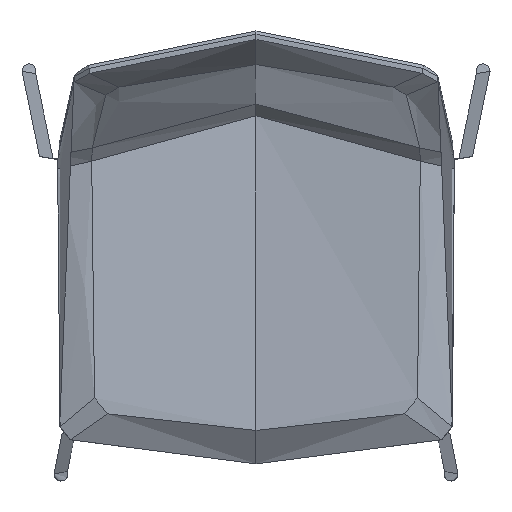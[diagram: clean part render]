
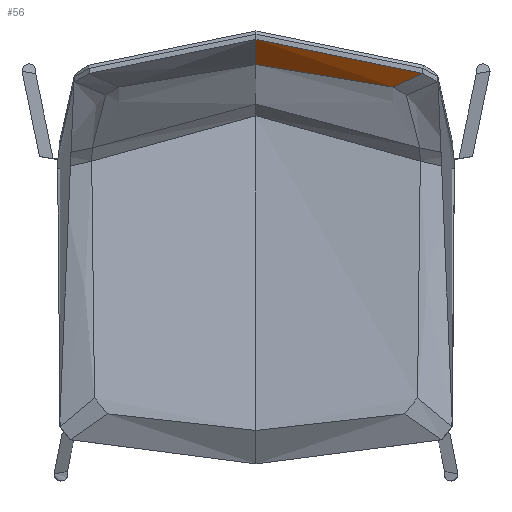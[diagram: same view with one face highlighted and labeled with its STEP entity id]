
A CAD part, top view. The second image highlights one B-rep face of the part: STEP entity #56.
In plain terms, the highlighted free-form (B-spline) face has degree [3, 4] with [6, 5] control points.
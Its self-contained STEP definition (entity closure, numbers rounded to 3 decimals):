
#56=ADVANCED_FACE('',(#182),#1774,.T.);
#182=FACE_OUTER_BOUND('',#308,.T.);
#308=EDGE_LOOP('',(#463,#464,#465,#466));
#463=ORIENTED_EDGE('',*,*,#974,.T.);
#464=ORIENTED_EDGE('',*,*,#976,.T.);
#465=ORIENTED_EDGE('',*,*,#977,.T.);
#466=ORIENTED_EDGE('',*,*,#975,.T.);
#974=EDGE_CURVE('',#1535,#1534,#1395,.T.);
#975=EDGE_CURVE('',#1526,#1535,#1396,.T.);
#976=EDGE_CURVE('',#1534,#1536,#1397,.T.);
#977=EDGE_CURVE('',#1536,#1526,#1398,.T.);
#1395=B_SPLINE_CURVE_WITH_KNOTS('',3,(#9945,#9946,#9947,#9948,#9949,#9950,
#9951,#9952,#9953,#9954,#9955,#9956,#9957,#9958,#9959,#9960,#9961,#9962,
#9963,#9964,#9965,#9966,#9967,#9968,#9969,#9970,#9971,#9972,#9973,#9974,
#9975,#9976),.UNSPECIFIED.,.F.,.F.,(4,1,1,1,1,1,1,1,1,1,1,1,1,1,1,1,1,1,
1,1,1,1,1,1,1,1,1,1,1,4),(-63.045,-54.908,-46.771,
-38.634,-33.752,-28.869,-23.987,
-19.105,-14.223,-12.801,-11.379,
-9.956,-8.534,-7.823,-7.112,
-6.4,-5.689,-4.978,-4.267,
-3.556,-3.2,-2.845,-2.489,
-2.133,-1.778,-1.422,-1.067,
-0.711,-0.356,0.),.UNSPECIFIED.);
#1396=B_SPLINE_CURVE_WITH_KNOTS('',3,(#9977,#9978,#9979,#9980,#9981,#9982),
 .UNSPECIFIED.,.F.,.F.,(4,2,4),(0.,96.928,164.198),
 .UNSPECIFIED.);
#1397=B_SPLINE_CURVE_WITH_KNOTS('',3,(#9983,#9984,#9985,#9986,#9987,#9988),
 .UNSPECIFIED.,.F.,.F.,(4,2,4),(-193.856,-96.928,0.),
 .UNSPECIFIED.);
#1398=B_SPLINE_CURVE_WITH_KNOTS('',4,(#9989,#9990,#9991,#9992,#9993),
 .UNSPECIFIED.,.F.,.F.,(5,5),(-58.239,0.),.UNSPECIFIED.);
#1526=VERTEX_POINT('',#9469);
#1534=VERTEX_POINT('',#9477);
#1535=VERTEX_POINT('',#9478);
#1536=VERTEX_POINT('',#9479);
#1774=B_SPLINE_SURFACE_WITH_KNOTS('',3,4,((#4336,#4337,#4338,#4339,#4340),
(#4341,#4342,#4343,#4344,#4345),(#4346,#4347,#4348,#4349,#4350),(#4351,
#4352,#4353,#4354,#4355),(#4356,#4357,#4358,#4359,#4360),(#4361,#4362,#4363,
#4364,#4365)),.UNSPECIFIED.,.F.,.F.,.F.,(4,2,4),(5,5),(0.,96.928,
193.856),(0.,58.239),.UNSPECIFIED.);
#4336=CARTESIAN_POINT('',(0.,246.095,758.816));
#4337=CARTESIAN_POINT('',(0.,250.302,773.715));
#4338=CARTESIAN_POINT('',(0.,254.709,788.558));
#4339=CARTESIAN_POINT('',(0.,267.49,807.231));
#4340=CARTESIAN_POINT('',(0.,275.,807.231));
#4341=CARTESIAN_POINT('',(31.727,246.094,758.817));
#4342=CARTESIAN_POINT('',(31.995,250.302,773.715));
#4343=CARTESIAN_POINT('',(32.276,254.71,788.558));
#4344=CARTESIAN_POINT('',(32.879,267.494,807.231));
#4345=CARTESIAN_POINT('',(32.892,275.003,807.231));
#4346=CARTESIAN_POINT('',(63.455,243.057,758.816));
#4347=CARTESIAN_POINT('',(63.992,247.206,773.806));
#4348=CARTESIAN_POINT('',(64.555,251.542,788.743));
#4349=CARTESIAN_POINT('',(65.758,264.251,807.248));
#4350=CARTESIAN_POINT('',(65.782,271.684,807.231));
#4351=CARTESIAN_POINT('',(125.745,230.96,758.817));
#4352=CARTESIAN_POINT('',(126.767,234.838,773.984));
#4353=CARTESIAN_POINT('',(127.827,238.853,789.114));
#4354=CARTESIAN_POINT('',(130.192,251.045,807.316));
#4355=CARTESIAN_POINT('',(130.241,258.549,807.23));
#4356=CARTESIAN_POINT('',(156.307,221.894,758.816));
#4357=CARTESIAN_POINT('',(157.541,225.561,774.07));
#4358=CARTESIAN_POINT('',(158.811,229.325,789.298));
#4359=CARTESIAN_POINT('',(161.744,241.09,807.37));
#4360=CARTESIAN_POINT('',(161.807,248.733,807.23));
#4361=CARTESIAN_POINT('',(185.684,209.908,758.816));
#4362=CARTESIAN_POINT('',(187.068,213.298,774.027));
#4363=CARTESIAN_POINT('',(188.469,216.733,789.226));
#4364=CARTESIAN_POINT('',(192.002,228.265,807.436));
#4365=CARTESIAN_POINT('',(192.077,235.864,807.229));
#9469=CARTESIAN_POINT('',(0.,246.095,758.816));
#9477=CARTESIAN_POINT('',(192.077,235.864,807.229));
#9478=CARTESIAN_POINT('',(158.402,220.087,758.816));
#9479=CARTESIAN_POINT('',(0.,275.,807.231));
#9945=CARTESIAN_POINT('',(158.402,220.087,758.816));
#9946=CARTESIAN_POINT('',(159.782,220.237,761.143));
#9947=CARTESIAN_POINT('',(162.54,220.529,765.797));
#9948=CARTESIAN_POINT('',(166.725,221.153,772.738));
#9949=CARTESIAN_POINT('',(170.419,221.972,778.679));
#9950=CARTESIAN_POINT('',(173.598,222.906,783.633));
#9951=CARTESIAN_POINT('',(176.232,223.836,787.629));
#9952=CARTESIAN_POINT('',(178.898,224.951,791.557));
#9953=CARTESIAN_POINT('',(181.598,226.28,795.394));
#9954=CARTESIAN_POINT('',(183.685,227.494,798.232));
#9955=CARTESIAN_POINT('',(185.137,228.45,800.128));
#9956=CARTESIAN_POINT('',(185.941,229.012,801.156));
#9957=CARTESIAN_POINT('',(186.748,229.612,802.162));
#9958=CARTESIAN_POINT('',(187.419,230.148,802.975));
#9959=CARTESIAN_POINT('',(187.957,230.603,803.608));
#9960=CARTESIAN_POINT('',(188.36,230.958,804.072));
#9961=CARTESIAN_POINT('',(188.763,231.33,804.524));
#9962=CARTESIAN_POINT('',(189.164,231.719,804.962));
#9963=CARTESIAN_POINT('',(189.564,232.128,805.384));
#9964=CARTESIAN_POINT('',(189.961,232.561,805.784));
#9965=CARTESIAN_POINT('',(190.288,232.942,806.097));
#9966=CARTESIAN_POINT('',(190.547,233.263,806.33));
#9967=CARTESIAN_POINT('',(190.738,233.512,806.496));
#9968=CARTESIAN_POINT('',(190.928,233.77,806.651));
#9969=CARTESIAN_POINT('',(191.114,234.037,806.794));
#9970=CARTESIAN_POINT('',(191.295,234.314,806.922));
#9971=CARTESIAN_POINT('',(191.471,234.603,807.032));
#9972=CARTESIAN_POINT('',(191.64,234.904,807.122));
#9973=CARTESIAN_POINT('',(191.8,235.215,807.189));
#9974=CARTESIAN_POINT('',(191.948,235.535,807.228));
#9975=CARTESIAN_POINT('',(192.036,235.754,807.232));
#9976=CARTESIAN_POINT('',(192.077,235.864,807.229));
#9977=CARTESIAN_POINT('',(0.,246.095,758.816));
#9978=CARTESIAN_POINT('',(31.727,246.094,758.817));
#9979=CARTESIAN_POINT('',(63.455,243.057,758.816));
#9980=CARTESIAN_POINT('',(116.215,232.811,758.816));
#9981=CARTESIAN_POINT('',(137.55,227.159,758.816));
#9982=CARTESIAN_POINT('',(158.402,220.087,758.816));
#9983=CARTESIAN_POINT('',(192.077,235.864,807.229));
#9984=CARTESIAN_POINT('',(161.807,248.733,807.23));
#9985=CARTESIAN_POINT('',(130.241,258.549,807.23));
#9986=CARTESIAN_POINT('',(65.782,271.684,807.231));
#9987=CARTESIAN_POINT('',(32.892,275.003,807.231));
#9988=CARTESIAN_POINT('',(0.,275.,807.231));
#9989=CARTESIAN_POINT('',(0.,275.,807.231));
#9990=CARTESIAN_POINT('',(0.,267.49,807.231));
#9991=CARTESIAN_POINT('',(0.,254.709,788.558));
#9992=CARTESIAN_POINT('',(0.,250.302,773.715));
#9993=CARTESIAN_POINT('',(0.,246.095,758.816));
